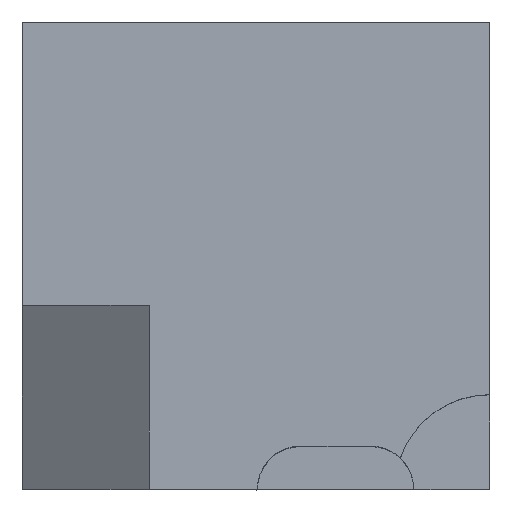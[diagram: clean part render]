
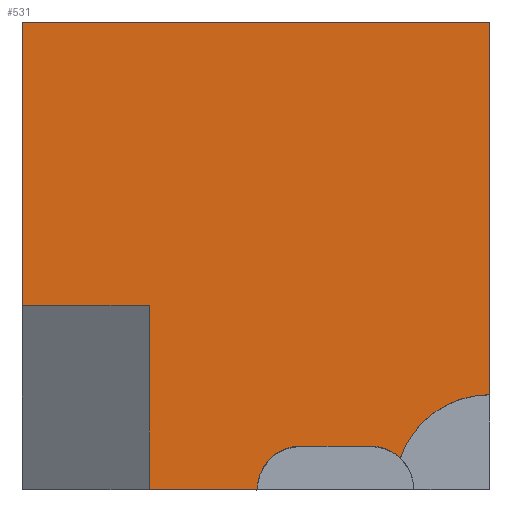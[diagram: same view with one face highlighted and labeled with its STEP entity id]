
A CAD part, top view. The second image highlights one B-rep face of the part: STEP entity #531.
In plain terms, the highlighted planar face has unit normal (0, 0, 1).
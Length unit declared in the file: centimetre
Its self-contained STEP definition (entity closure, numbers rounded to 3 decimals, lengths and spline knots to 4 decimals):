
#2 = ORIENTED_EDGE ( 'NONE', *, *, #386, .F. ) ;
#24 = ORIENTED_EDGE ( 'NONE', *, *, #68, .F. ) ;
#38 = VECTOR ( 'NONE', #588, 100. ) ;
#40 = CARTESIAN_POINT ( 'NONE',  ( 271.6463, 0., 1000. ) ) ;
#58 = CARTESIAN_POINT ( 'NONE',  ( 595.5902, 0., 1000. ) ) ;
#68 = EDGE_CURVE ( 'NONE', #690, #148, #373, .T. ) ;
#82 = VECTOR ( 'NONE', #376, 100. ) ;
#87 = ORIENTED_EDGE ( 'NONE', *, *, #807, .T. ) ;
#90 = VERTEX_POINT ( 'NONE', #240 ) ;
#97 = AXIS2_PLACEMENT_3D ( 'NONE', #814, #185, #670 ) ;
#114 = CARTESIAN_POINT ( 'NONE',  ( 745.0687, 92.6346, 1000. ) ) ;
#122 = CARTESIAN_POINT ( 'NONE',  ( 1000., 202.5246, 1000. ) ) ;
#133 = VERTEX_POINT ( 'NONE', #40 ) ;
#137 = AXIS2_PLACEMENT_3D ( 'NONE', #398, #731, #672 ) ;
#144 = VERTEX_POINT ( 'NONE', #114 ) ;
#148 = VERTEX_POINT ( 'NONE', #786 ) ;
#151 = VECTOR ( 'NONE', #795, 100. ) ;
#162 = DIRECTION ( 'NONE',  ( 0., 0., 1. ) ) ;
#164 = VECTOR ( 'NONE', #667, 100. ) ;
#171 = LINE ( 'NONE', #227, #82 ) ;
#182 = FACE_OUTER_BOUND ( 'NONE', #470, .T. ) ;
#185 = DIRECTION ( 'NONE',  ( 0., 0., 1. ) ) ;
#217 = LINE ( 'NONE', #367, #679 ) ;
#227 = CARTESIAN_POINT ( 'NONE',  ( 0., 0., 1000. ) ) ;
#240 = CARTESIAN_POINT ( 'NONE',  ( 502.9556, 0., 1000. ) ) ;
#281 = VERTEX_POINT ( 'NONE', #409 ) ;
#287 = VERTEX_POINT ( 'NONE', #610 ) ;
#299 = CARTESIAN_POINT ( 'NONE',  ( 808.9191, 67.114, 1000. ) ) ;
#304 = EDGE_CURVE ( 'NONE', #379, #144, #763, .T. ) ;
#319 = EDGE_CURVE ( 'NONE', #287, #148, #733, .T. ) ;
#322 = CARTESIAN_POINT ( 'NONE',  ( 1000., 1000., 1000. ) ) ;
#326 = CARTESIAN_POINT ( 'NONE',  ( 745.0687, 92.6346, 1000. ) ) ;
#327 = ORIENTED_EDGE ( 'NONE', *, *, #551, .F. ) ;
#355 = VERTEX_POINT ( 'NONE', #381 ) ;
#363 = EDGE_CURVE ( 'NONE', #133, #90, #171, .T. ) ;
#367 = CARTESIAN_POINT ( 'NONE',  ( 271.6463, 393.6769, 1000. ) ) ;
#373 = LINE ( 'NONE', #649, #38 ) ;
#376 = DIRECTION ( 'NONE',  ( 1., 0., 0. ) ) ;
#379 = VERTEX_POINT ( 'NONE', #299 ) ;
#381 = CARTESIAN_POINT ( 'NONE',  ( 1000., 1000., 1000. ) ) ;
#386 = EDGE_CURVE ( 'NONE', #544, #379, #528, .T. ) ;
#392 = CARTESIAN_POINT ( 'NONE',  ( 0., 1000., 1000. ) ) ;
#398 = CARTESIAN_POINT ( 'NONE',  ( 0., 0., 1000. ) ) ;
#406 = CARTESIAN_POINT ( 'NONE',  ( 271.6463, 393.6769, 1000. ) ) ;
#407 = VECTOR ( 'NONE', #840, 100. ) ;
#409 = CARTESIAN_POINT ( 'NONE',  ( 595.5902, 92.6346, 1000. ) ) ;
#412 = ORIENTED_EDGE ( 'NONE', *, *, #319, .T. ) ;
#437 = AXIS2_PLACEMENT_3D ( 'NONE', #518, #162, #585 ) ;
#441 = LINE ( 'NONE', #711, #407 ) ;
#470 = EDGE_LOOP ( 'NONE', ( #813, #327, #881, #2, #883, #87, #412, #24, #788, #482 ) ) ;
#482 = ORIENTED_EDGE ( 'NONE', *, *, #363, .T. ) ;
#515 = AXIS2_PLACEMENT_3D ( 'NONE', #58, #812, #873 ) ;
#518 = CARTESIAN_POINT ( 'NONE',  ( 1000., 0., 1000. ) ) ;
#528 = CIRCLE ( 'NONE', #437, 202.5246 ) ;
#531 = ADVANCED_FACE ( 'NONE', ( #182 ), #728, .T. ) ;
#532 = LINE ( 'NONE', #322, #151 ) ;
#544 = VERTEX_POINT ( 'NONE', #122 ) ;
#547 = EDGE_CURVE ( 'NONE', #281, #90, #664, .T. ) ;
#548 = LINE ( 'NONE', #326, #587 ) ;
#551 = EDGE_CURVE ( 'NONE', #144, #281, #548, .T. ) ;
#559 = DIRECTION ( 'NONE',  ( 0., -1., 0. ) ) ;
#585 = DIRECTION ( 'NONE',  ( 1., 0., 0. ) ) ;
#587 = VECTOR ( 'NONE', #666, 100. ) ;
#588 = DIRECTION ( 'NONE',  ( -1., 0., 0. ) ) ;
#595 = EDGE_CURVE ( 'NONE', #544, #355, #532, .T. ) ;
#610 = CARTESIAN_POINT ( 'NONE',  ( 0., 1000., 1000. ) ) ;
#649 = CARTESIAN_POINT ( 'NONE',  ( 271.6463, 393.6769, 1000. ) ) ;
#664 = CIRCLE ( 'NONE', #515, 92.6346 ) ;
#666 = DIRECTION ( 'NONE',  ( -1., 0., 0. ) ) ;
#667 = DIRECTION ( 'NONE',  ( 0., -1., 0. ) ) ;
#670 = DIRECTION ( 'NONE',  ( 1., 0., 0. ) ) ;
#672 = DIRECTION ( 'NONE',  ( 1., 0., 0. ) ) ;
#679 = VECTOR ( 'NONE', #559, 100. ) ;
#690 = VERTEX_POINT ( 'NONE', #406 ) ;
#711 = CARTESIAN_POINT ( 'NONE',  ( 0., 1000., 1000. ) ) ;
#728 = PLANE ( 'NONE',  #137 ) ;
#731 = DIRECTION ( 'NONE',  ( 0., 0., 1. ) ) ;
#733 = LINE ( 'NONE', #392, #164 ) ;
#763 = CIRCLE ( 'NONE', #97, 92.6346 ) ;
#786 = CARTESIAN_POINT ( 'NONE',  ( 0., 393.6769, 1000. ) ) ;
#788 = ORIENTED_EDGE ( 'NONE', *, *, #884, .T. ) ;
#795 = DIRECTION ( 'NONE',  ( 0., 1., 0. ) ) ;
#807 = EDGE_CURVE ( 'NONE', #355, #287, #441, .T. ) ;
#812 = DIRECTION ( 'NONE',  ( 0., 0., 1. ) ) ;
#813 = ORIENTED_EDGE ( 'NONE', *, *, #547, .F. ) ;
#814 = CARTESIAN_POINT ( 'NONE',  ( 745.0687, 0., 1000. ) ) ;
#840 = DIRECTION ( 'NONE',  ( -1., 0., 0. ) ) ;
#873 = DIRECTION ( 'NONE',  ( 1., 0., 0. ) ) ;
#881 = ORIENTED_EDGE ( 'NONE', *, *, #304, .F. ) ;
#883 = ORIENTED_EDGE ( 'NONE', *, *, #595, .T. ) ;
#884 = EDGE_CURVE ( 'NONE', #690, #133, #217, .T. ) ;
